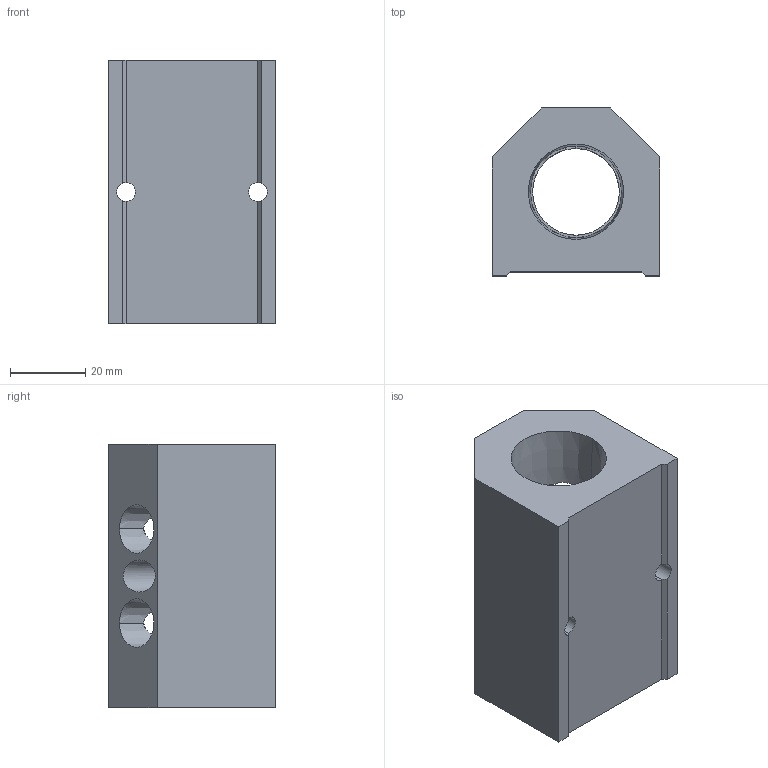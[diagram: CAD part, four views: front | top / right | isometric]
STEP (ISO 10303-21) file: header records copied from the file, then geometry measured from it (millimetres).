
FILE_DESCRIPTION (( 'STEP AP214' ), '1' );
FILE_NAME ('ALM2BCD-N4N12-70B.step', '2022-02-06T14:10:20', ( '' ), ( '' ), 'SwSTEP 2.0', 'SolidWorks 2020', '' );
FILE_SCHEMA (( 'AUTOMOTIVE_DESIGN' ));
Length unit declared in the file: millimetre
Products named in the file (1): ALM2BCD-N4N12-70B
Bounding box: 44.5 x 44.5 x 70 mm (x, y, z)
Volume: 82826.1 mm3; surface area: 21575.9 mm2
Topology: 1 solids, 1 shells, 314 faces, 849 edges, 562 vertices
Faces by surface type: plane 204, bspline 60, cone 26, cylinder 24
Entity records: 14507 total; most frequent: CARTESIAN_POINT 6870, ORIENTED_EDGE 1698, DIRECTION 1227, EDGE_CURVE 849, LINE 581, VECTOR 581, VERTEX_POINT 562, EDGE_LOOP 357
